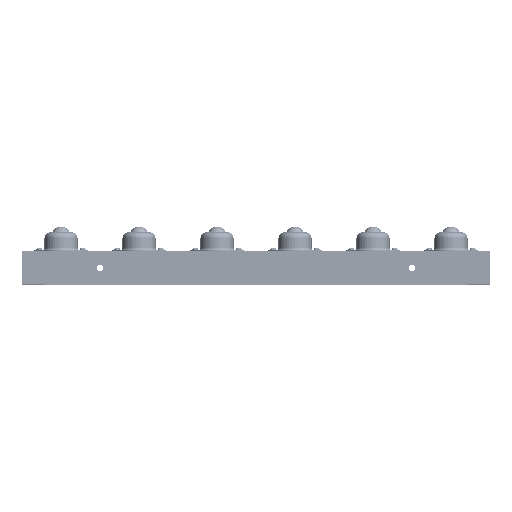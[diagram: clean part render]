
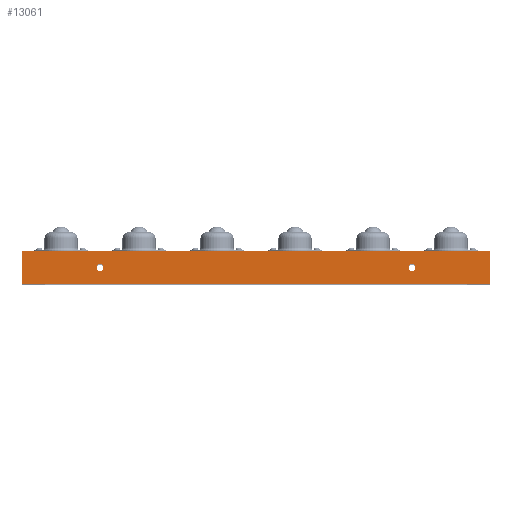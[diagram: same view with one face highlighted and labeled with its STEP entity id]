
A CAD part, top view. The second image highlights one B-rep face of the part: STEP entity #13061.
In plain terms, the highlighted planar face has unit normal (0, 0, 1).
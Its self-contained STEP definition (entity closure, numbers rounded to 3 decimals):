
#121 = DIRECTION ( 'NONE',  ( 0., 0., 1. ) ) ;
#157 = CARTESIAN_POINT ( 'NONE',  ( -204.5, 21.5, 300. ) ) ;
#228 = VECTOR ( 'NONE', #10594, 1000. ) ;
#564 = ORIENTED_EDGE ( 'NONE', *, *, #15437, .T. ) ;
#686 = EDGE_CURVE ( 'NONE', #3853, #6177, #902, .T. ) ;
#688 = LINE ( 'NONE', #12498, #10623 ) ;
#706 = CIRCLE ( 'NONE', #8141, 4.5 ) ;
#827 = ORIENTED_EDGE ( 'NONE', *, *, #3070, .T. ) ;
#902 = CIRCLE ( 'NONE', #5765, 4.5 ) ;
#933 = FACE_OUTER_BOUND ( 'NONE', #9277, .T. ) ;
#1896 = CARTESIAN_POINT ( 'NONE',  ( 195.5, 21.5, 300. ) ) ;
#2186 = DIRECTION ( 'NONE',  ( 0., -1., 0. ) ) ;
#2524 = CARTESIAN_POINT ( 'NONE',  ( -300., 0., 300. ) ) ;
#2816 = EDGE_LOOP ( 'NONE', ( #6859, #12093 ) ) ;
#2835 = CARTESIAN_POINT ( 'NONE',  ( -200., 21.5, 300. ) ) ;
#2930 = VECTOR ( 'NONE', #2186, 1000. ) ;
#3070 = EDGE_CURVE ( 'NONE', #16439, #4353, #3680, .T. ) ;
#3588 = CARTESIAN_POINT ( 'NONE',  ( 204.5, 21.5, 300. ) ) ;
#3605 = DIRECTION ( 'NONE',  ( -1., 0., 0. ) ) ;
#3655 = CARTESIAN_POINT ( 'NONE',  ( 200., 21.5, 300. ) ) ;
#3680 = LINE ( 'NONE', #14431, #228 ) ;
#3853 = VERTEX_POINT ( 'NONE', #13721 ) ;
#3880 = DIRECTION ( 'NONE',  ( 0., 0., 1. ) ) ;
#4038 = VECTOR ( 'NONE', #3605, 1000. ) ;
#4141 = DIRECTION ( 'NONE',  ( 1., 0., 0. ) ) ;
#4353 = VERTEX_POINT ( 'NONE', #6044 ) ;
#4380 = FACE_BOUND ( 'NONE', #2816, .T. ) ;
#4620 = VERTEX_POINT ( 'NONE', #8037 ) ;
#4940 = CIRCLE ( 'NONE', #7951, 4.5 ) ;
#4966 = DIRECTION ( 'NONE',  ( 1., 0., 0. ) ) ;
#5765 = AXIS2_PLACEMENT_3D ( 'NONE', #2835, #11905, #4141 ) ;
#5987 = ORIENTED_EDGE ( 'NONE', *, *, #7284, .F. ) ;
#6044 = CARTESIAN_POINT ( 'NONE',  ( -300., 43., 300. ) ) ;
#6175 = AXIS2_PLACEMENT_3D ( 'NONE', #12932, #6460, #15515 ) ;
#6177 = VERTEX_POINT ( 'NONE', #157 ) ;
#6354 = ORIENTED_EDGE ( 'NONE', *, *, #686, .F. ) ;
#6460 = DIRECTION ( 'NONE',  ( 0., 0., -1. ) ) ;
#6859 = ORIENTED_EDGE ( 'NONE', *, *, #11721, .F. ) ;
#7284 = EDGE_CURVE ( 'NONE', #16439, #4620, #13686, .T. ) ;
#7415 = FACE_BOUND ( 'NONE', #7559, .T. ) ;
#7492 = LINE ( 'NONE', #12687, #4038 ) ;
#7559 = EDGE_LOOP ( 'NONE', ( #6354, #11548 ) ) ;
#7881 = CARTESIAN_POINT ( 'NONE',  ( 200., 21.5, 300. ) ) ;
#7951 = AXIS2_PLACEMENT_3D ( 'NONE', #11643, #3880, #12964 ) ;
#8037 = CARTESIAN_POINT ( 'NONE',  ( 300., 0., 300. ) ) ;
#8141 = AXIS2_PLACEMENT_3D ( 'NONE', #3655, #12741, #4966 ) ;
#9178 = DIRECTION ( 'NONE',  ( 1., 0., 0. ) ) ;
#9277 = EDGE_LOOP ( 'NONE', ( #5987, #827, #564, #13514 ) ) ;
#10594 = DIRECTION ( 'NONE',  ( -1., 0., 0. ) ) ;
#10623 = VECTOR ( 'NONE', #16401, 1000. ) ;
#10910 = VERTEX_POINT ( 'NONE', #1896 ) ;
#11009 = EDGE_CURVE ( 'NONE', #4620, #16046, #7492, .T. ) ;
#11474 = VERTEX_POINT ( 'NONE', #3588 ) ;
#11548 = ORIENTED_EDGE ( 'NONE', *, *, #16068, .F. ) ;
#11614 = PLANE ( 'NONE',  #6175 ) ;
#11643 = CARTESIAN_POINT ( 'NONE',  ( -200., 21.5, 300. ) ) ;
#11713 = CIRCLE ( 'NONE', #13856, 4.5 ) ;
#11721 = EDGE_CURVE ( 'NONE', #11474, #10910, #11713, .T. ) ;
#11905 = DIRECTION ( 'NONE',  ( 0., 0., 1. ) ) ;
#12093 = ORIENTED_EDGE ( 'NONE', *, *, #14814, .F. ) ;
#12271 = CARTESIAN_POINT ( 'NONE',  ( 300., 43., 300. ) ) ;
#12498 = CARTESIAN_POINT ( 'NONE',  ( -300., 43., 300. ) ) ;
#12687 = CARTESIAN_POINT ( 'NONE',  ( 300., 0., 300. ) ) ;
#12741 = DIRECTION ( 'NONE',  ( 0., 0., 1. ) ) ;
#12932 = CARTESIAN_POINT ( 'NONE',  ( 300., 43., 300. ) ) ;
#12964 = DIRECTION ( 'NONE',  ( 1., 0., 0. ) ) ;
#13061 = ADVANCED_FACE ( 'NONE', ( #4380, #933, #7415 ), #11614, .F. ) ;
#13514 = ORIENTED_EDGE ( 'NONE', *, *, #11009, .F. ) ;
#13686 = LINE ( 'NONE', #15088, #2930 ) ;
#13721 = CARTESIAN_POINT ( 'NONE',  ( -195.5, 21.5, 300. ) ) ;
#13856 = AXIS2_PLACEMENT_3D ( 'NONE', #7881, #121, #9178 ) ;
#14431 = CARTESIAN_POINT ( 'NONE',  ( 0., 43., 300. ) ) ;
#14814 = EDGE_CURVE ( 'NONE', #10910, #11474, #706, .T. ) ;
#15088 = CARTESIAN_POINT ( 'NONE',  ( 300., 43., 300. ) ) ;
#15437 = EDGE_CURVE ( 'NONE', #4353, #16046, #688, .T. ) ;
#15515 = DIRECTION ( 'NONE',  ( -1., 0., 0. ) ) ;
#16046 = VERTEX_POINT ( 'NONE', #2524 ) ;
#16068 = EDGE_CURVE ( 'NONE', #6177, #3853, #4940, .T. ) ;
#16401 = DIRECTION ( 'NONE',  ( 0., -1., 0. ) ) ;
#16439 = VERTEX_POINT ( 'NONE', #12271 ) ;
